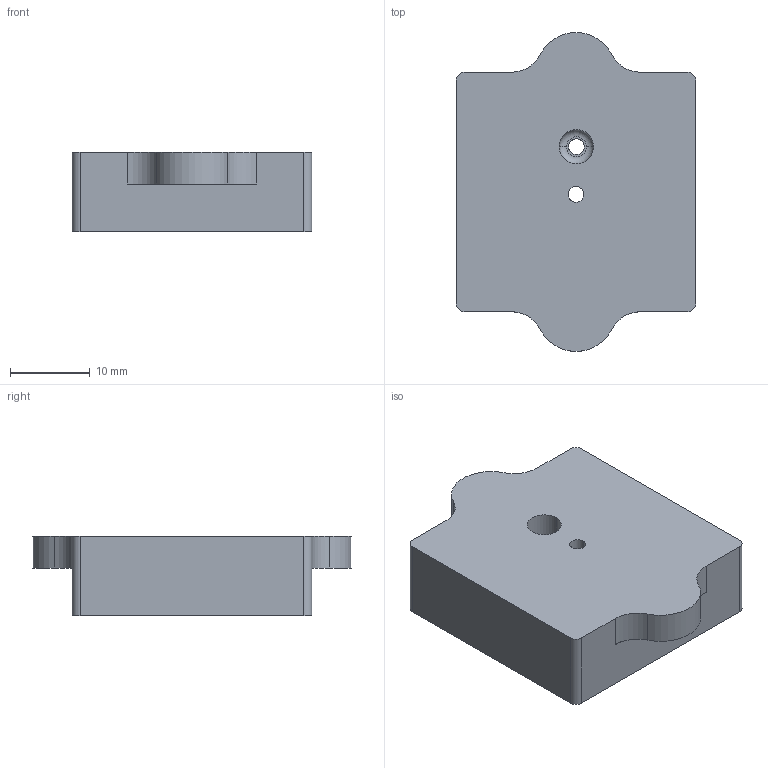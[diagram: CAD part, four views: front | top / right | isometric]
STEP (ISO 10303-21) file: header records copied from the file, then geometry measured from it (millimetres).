
FILE_DESCRIPTION (( 'STEP AP214' ), '1' );
FILE_NAME ('Formhaelfte_1.STEP', '2023-10-15T10:42:22', ( 'Lenovo' ), ( '' ), 'SwSTEP 2.0', 'SolidWorks 2019', '' );
FILE_SCHEMA (( 'AUTOMOTIVE_DESIGN' ));
Length unit declared in the file: millimetre
Products named in the file (1): Formhaelfte_1
Bounding box: 30 x 39.94 x 10 mm (x, y, z)
Volume: 8551.5 mm3; surface area: 3710.9 mm2
Topology: 1 solids, 1 shells, 43 faces, 112 edges, 74 vertices
Faces by surface type: cylinder 24, plane 17, torus 2
Entity records: 1414 total; most frequent: CARTESIAN_POINT 278, DIRECTION 242, ORIENTED_EDGE 224, EDGE_CURVE 112, AXIS2_PLACEMENT_3D 92, VERTEX_POINT 74, LINE 58, VECTOR 58
